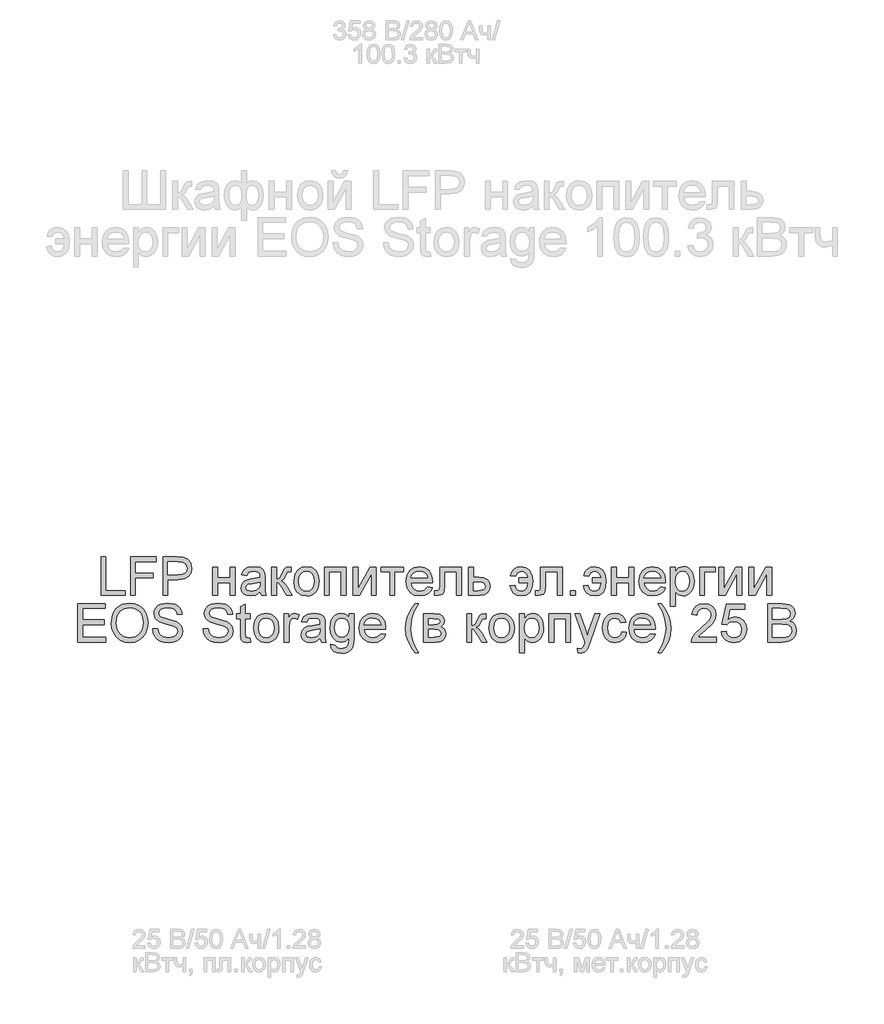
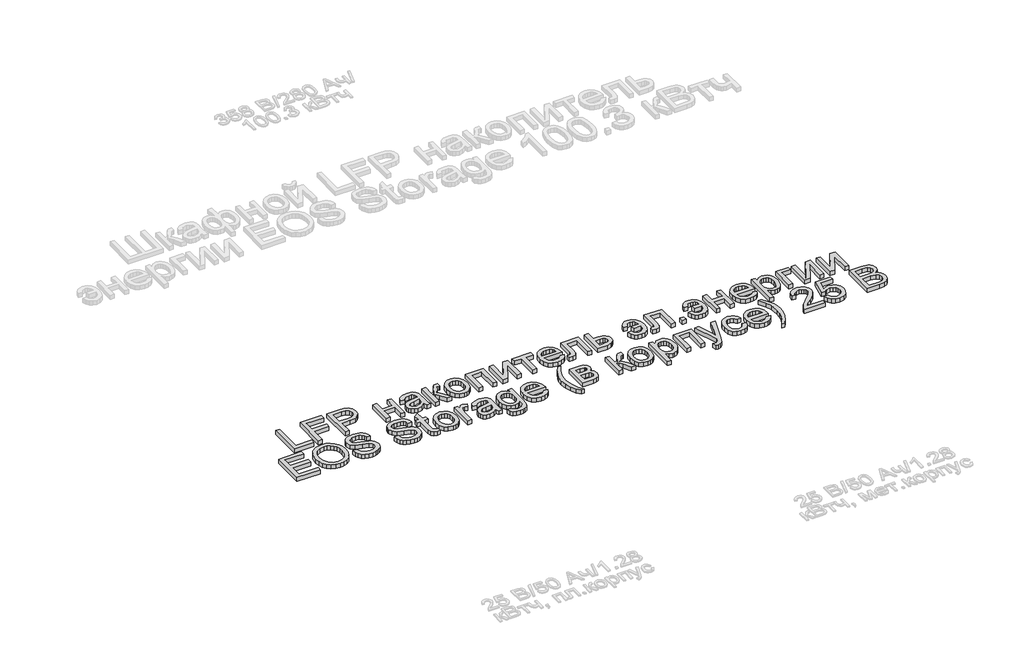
# One storey, part 20 of 26: 1 proxy.
"""IFC4 building model written with IfcOpenShell, lengths in millimetres."""

from ifc_helpers import new_model, si_unit, origin, origin_with_axes, place, context, project, spatial, polyline, outline, extrude, element, save

model = new_model("IFC4")

# Units and contexts
model_context = context("Model", 3, world=origin())
ifc_project = project(units=[si_unit("LENGTHUNIT", "METRE", prefix="MILLI")], contexts=[model_context])

# Site, building, storey
site = spatial("IfcSite", under=ifc_project)
building = spatial("IfcBuilding", under=site)
storey = spatial("IfcBuildingStorey", under=building, Name="Этаж 01", Elevation=0.0)

# Proxy
placement = place(None, origin())
element("IfcBuildingElementProxy", 1, Name="150 мм Arial", ObjectType="150 мм Arial", at=placement, inside=storey, context=model_context, shape_type="SweptSolid", body=[
    extrude(outline(polyline([(14247.5390032, -14011.2706711), (14247.5390032, -13860.5862059), (14266.3745613, -13860.5862059), (14266.3745613, -13992.4351129), (14341.7167939, -13992.4351129), (14341.7167939, -14011.2706711), (14247.5390032, -14011.2706711)])), origin_with_axes(), (0.0, 0.0, 1.0), 20.0),
    extrude(outline(polyline([(14362.9067968, -14011.2706711), (14362.9067968, -13860.5862059), (14464.1479219, -13860.5862059), (14464.1479219, -13879.421764), (14381.742355, -13879.421764), (14381.742355, -13924.1562146), (14452.3756981, -13924.1562146), (14452.3756981, -13942.9917728), (14381.742355, -13942.9917728), (14381.742355, -14011.2706711), (14362.9067968, -14011.2706711)])), origin_with_axes(), (0.0, 0.0, 1.0), 20.0),
    extrude(outline(polyline([(14490.0468144, -14011.2706711), (14490.0468144, -13860.5862059), (14545.8913012, -13860.5862059), (14568.4056793, -13862.0209456), (14586.7078086, -13869.0658858), (14598.5720029, -13883.6340129), (14603.0601633, -13904.1802223), (14600.0297354, -13921.9397256), (14590.9384515, -13936.7377789), (14573.9377048, -13946.725775), (14547.1788882, -13950.0551071), (14508.8823725, -13950.0551071), (14508.8823725, -14011.2706711), (14490.0468144, -14011.2706711)]), holes=[polyline([(14508.8823725, -13931.2195489), (14548.2825342, -13931.2195489), (14564.9843768, -13929.4905036), (14576.0208366, -13924.3033674), (14582.173663, -13915.9800373), (14584.2246051, -13904.8424099), (14579.3869569, -13889.2442133), (14566.676634, -13880.709351), (14547.8410758, -13879.421764), (14508.8823725, -13879.421764), (14508.8823725, -13931.2195489)])]), origin_with_axes(), (0.0, 0.0, 1.0), 20.0),
    extrude(outline(polyline([(14685.4657302, -13900.6117669), (14704.3012884, -13900.6117669), (14704.3012884, -13942.9917728), (14753.7446285, -13942.9917728), (14753.7446285, -13900.6117669), (14772.5801867, -13900.6117669), (14772.5801867, -14011.2706711), (14753.7446285, -14011.2706711), (14753.7446285, -13961.8273309), (14704.3012884, -13961.8273309), (14704.3012884, -14011.2706711), (14685.4657302, -14011.2706711), (14685.4657302, -13900.6117669)])), origin_with_axes(), (0.0, 0.0, 1.0), 20.0),
    extrude(outline(polyline([(14871.466867, -13997.1440025), (14853.2015259, -14009.9095077), (14833.0231985, -14013.6251159), (14817.2824476, -14011.3902327), (14805.6711721, -14004.6855834), (14798.5112688, -13994.5044492), (14796.1246344, -13981.8401115), (14799.7298779, -13966.9408907), (14809.2028393, -13956.12516), (14822.3914088, -13949.9447425), (14838.6885812, -13947.1120511), (14871.3565024, -13940.637328), (14871.466867, -13936.4434733), (14870.1700829, -13928.0373697), (14866.2797308, -13922.5375338), (14857.5793217, -13918.4540437), (14845.4576099, -13917.0928803), (14826.4013226, -13920.716518), (14817.3146373, -13933.5739937), (14798.4790791, -13931.2195489), (14806.6276653, -13912.8254492), (14823.0352023, -13902.0465067), (14847.8856311, -13898.2573222), (14870.7127089, -13901.6050483), (14883.6069728, -13910.0111519), (14889.3827201, -13922.7950512), (14890.3024251, -13939.2761646), (14890.3024251, -13962.7102477), (14891.2589183, -13995.4333512), (14895.0113147, -14011.2706711), (14876.1757565, -14011.2706711), (14871.466867, -13997.1440025)]), holes=[polyline([(14871.466867, -13959.4728862), (14841.0798142, -13965.2486335), (14824.8746123, -13968.302054), (14817.5353665, -13973.268461), (14814.9601925, -13980.5157363), (14820.5703929, -13990.7060676), (14837.0331122, -13994.7895577), (14856.0893996, -13990.2830033), (14868.3766582, -13979.3753021), (14871.3565024, -13964.8071751), (14871.466867, -13959.4728862)])]), origin_with_axes(), (0.0, 0.0, 1.0), 20.0),
    extrude(outline(polyline([(14916.2013176, -13900.6117669), (14935.0368757, -13900.6117669), (14935.0368757, -13947.7006623), (14947.6552282, -13944.316148), (14957.9927122, -13924.597673), (14966.5827568, -13907.5831307), (14974.1611259, -13902.0465067), (14987.9383066, -13900.6117669), (14991.5435502, -13900.6117669), (14991.5435502, -13919.5576897), (14986.4667787, -13919.4473251), (14977.2697288, -13921.4338879), (14970.7950057, -13933.8315111), (14963.1982425, -13947.2408098), (14952.5480587, -13953.8075034), (14964.4306472, -13961.1375522), (14976.0925064, -13976.5793989), (14996.2524397, -14011.2706711), (14974.8417076, -14011.2706711), (14955.0864445, -13977.3151629), (14945.1536306, -13962.949371), (14935.0368757, -13959.4728862), (14935.0368757, -14011.2706711), (14916.2013176, -14011.2706711), (14916.2013176, -13900.6117669)])), origin_with_axes(), (0.0, 0.0, 1.0), 20.0),
    extrude(outline(polyline([(15003.315774, -13955.941219), (15007.3900671, -13929.2605773), (15019.6129464, -13910.5077926), (15034.7145023, -13901.3199398), (15052.7959024, -13898.2573222), (15072.5833552, -13901.9867259), (15088.3884854, -13913.1749371), (15098.7489621, -13930.9390389), (15102.2024543, -13954.3961146), (15100.6757441, -13973.4248108), (15096.0956132, -13987.9101644), (15088.595419, -13998.7580847), (15078.3085188, -14006.8744812), (15066.090238, -14011.9374572), (15052.7959024, -14013.6251159), (15032.7693263, -14009.9095077), (15016.9825902, -13998.7626832), (15006.7324781, -13980.6261009), (15003.315774, -13955.941219)]), holes=[polyline([(15022.1513322, -13955.9044308), (15024.331033, -13972.9511628), (15030.8701355, -13985.0958671), (15040.7109789, -13992.3661351), (15052.7959024, -13994.7895577), (15064.8256436, -13992.3523395), (15074.6480929, -13985.0406848), (15081.1871954, -13972.7350321), (15083.3668962, -13955.3158196), (15081.1733998, -13938.7657284), (15074.5929106, -13926.7865709), (15064.7566658, -13919.516303), (15052.7959024, -13917.0928803), (15040.7109789, -13919.5071059), (15030.8701355, -13926.7497827), (15024.331033, -13938.8668959), (15022.1513322, -13955.9044308)])]), origin_with_axes(), (0.0, 0.0, 1.0), 20.0),
    extrude(outline(polyline([(15123.3924573, -13900.6117669), (15208.152469, -13900.6117669), (15208.152469, -14011.2706711), (15189.3169108, -14011.2706711), (15189.3169108, -13919.4473251), (15142.2280154, -13919.4473251), (15142.2280154, -14011.2706711), (15123.3924573, -14011.2706711), (15123.3924573, -13900.6117669)])), origin_with_axes(), (0.0, 0.0, 1.0), 20.0),
    extrude(outline(polyline([(15236.4058062, -13900.6117669), (15255.2413643, -13900.6117669), (15255.2413643, -13985.0038966), (15301.5209193, -13900.6117669), (15325.8747074, -13900.6117669), (15325.8747074, -14011.2706711), (15307.0391493, -14011.2706711), (15307.0391493, -13927.3935762), (15261.0538999, -14011.2706711), (15236.4058062, -14011.2706711), (15236.4058062, -13900.6117669)])), origin_with_axes(), (0.0, 0.0, 1.0), 20.0),
    extrude(outline(polyline([(15344.7102656, -13900.6117669), (15434.1791668, -13900.6117669), (15434.1791668, -13919.4473251), (15398.8624953, -13919.4473251), (15398.8624953, -14011.2706711), (15380.0269371, -14011.2706711), (15380.0269371, -13919.4473251), (15344.7102656, -13919.4473251), (15344.7102656, -13900.6117669)])), origin_with_axes(), (0.0, 0.0, 1.0), 20.0),
    extrude(outline(polyline([(15528.1362284, -13978.3084443), (15546.6039045, -13980.6628891), (15539.9498389, -13994.5780256), (15529.3318448, -14004.979889), (15514.9890456, -14011.4638091), (15497.1605644, -14013.6251159), (15475.0600535, -14009.8957121), (15458.0547083, -13998.7075009), (15447.2113865, -13980.7870493), (15443.5969459, -13956.860924), (15447.2481747, -13932.1300569), (15458.2018611, -13913.6347896), (15474.9772801, -13902.101689), (15496.0937066, -13898.2573222), (15516.552544, -13902.092492), (15532.9003002, -13913.5980014), (15543.6194618, -13932.0564805), (15547.1925157, -13956.7505594), (15547.0821511, -13961.8273309), (15462.432504, -13961.8273309), (15465.6928582, -13975.9264084), (15473.2666288, -13986.2914836), (15484.1973226, -13992.6650392), (15497.5284464, -13994.7895577), (15515.9961225, -13990.8532203), (15528.1362284, -13978.3084443)]), holes=[polyline([(15462.432504, -13942.9917728), (15528.3569576, -13942.9917728), (15525.8093747, -13933.0405648), (15520.8153767, -13925.9220482), (15509.8340991, -13919.3001723), (15496.0201302, -13917.0928803), (15483.3236028, -13918.8541154), (15472.8251704, -13924.1378205), (15465.5273113, -13932.3737787), (15462.432504, -13942.9917728)])]), origin_with_axes(), (0.0, 0.0, 1.0), 20.0),
    extrude(outline(polyline([(15575.4458529, -13900.6117669), (15660.2058646, -13900.6117669), (15660.2058646, -14011.1603065), (15641.3703065, -14011.1603065), (15641.3703065, -13919.4473251), (15594.2814111, -13919.4473251), (15594.2814111, -13972.2383914), (15593.0122182, -13996.5921795), (15586.0408544, -14006.8744812), (15569.559741, -14011.2706711), (15554.25585, -14010.3141779), (15554.25585, -13992.4351129), (15562.6803477, -13992.4351129), (15571.1968159, -13991.2762846), (15574.5997244, -13987.5974647), (15575.4458529, -13971.1715336), (15575.4458529, -13900.6117669)])), origin_with_axes(), (0.0, 0.0, 1.0), 20.0),
    extrude(outline(polyline([(15688.4592019, -13900.6117669), (15707.29476, -13900.6117669), (15707.29476, -13940.637328), (15728.9997977, -13940.637328), (15747.8169618, -13942.9963713), (15761.7412953, -13950.0735012), (15770.349734, -13961.2985006), (15773.2192135, -13976.1011523), (15770.7773968, -13989.5794289), (15763.4519466, -14000.9515811), (15750.7554192, -14008.6908986), (15732.2003711, -14011.2706711), (15688.4592019, -14011.2706711), (15688.4592019, -13900.6117669)]), holes=[polyline([(15707.29476, -13992.4351129), (15724.8795194, -13992.4351129), (15747.5962326, -13988.4803815), (15752.6867997, -13983.4174055), (15754.3836554, -13976.1379405), (15749.3620662, -13964.5496577), (15741.2916549, -13960.742079), (15727.1235996, -13959.4728862), (15707.29476, -13959.4728862), (15707.29476, -13992.4351129)])]), origin_with_axes(), (0.0, 0.0, 1.0), 20.0),
    extrude(outline(polyline([(15886.2325625, -13942.9917728), (15921.549234, -13942.9917728), (15918.6475648, -13932.5577197), (15913.0327658, -13924.2849733), (15905.0727191, -13918.8909036), (15895.1353067, -13917.0928803), (15879.8682039, -13921.8017699), (15872.1058939, -13935.9284385), (15853.2703357, -13933.5739937), (15857.661927, -13919.4335295), (15866.2013878, -13908.1349537), (15878.4564568, -13900.7267301), (15893.9948726, -13898.2573222), (15913.2213053, -13902.101689), (15927.9319866, -13913.6347896), (15937.2715908, -13931.9001306), (15940.3847922, -13955.941219), (15937.8142167, -13979.8719428), (15928.925268, -13998.6891068), (15914.3985277, -14010.5533012), (15894.9145776, -14013.6251159), (15878.212735, -14010.8705994), (15865.0425595, -14002.6070501), (15855.8087215, -13989.8461434), (15850.9158909, -13973.5995548), (15869.7514491, -13971.24511), (15872.7266947, -13981.5458059), (15877.8632471, -13988.9034458), (15885.1611062, -13993.3180297), (15894.620272, -13994.7895577), (15905.2612587, -13992.7294185), (15913.2718891, -13986.549001), (15918.6889515, -13976.2483051), (15921.549234, -13961.8273309), (15886.2325625, -13961.8273309), (15886.2325625, -13942.9917728)])), origin_with_axes(), (0.0, 0.0, 1.0), 20.0),
    extrude(outline(polyline([(15970.9925742, -13900.6117669), (16055.7525858, -13900.6117669), (16055.7525858, -14011.1603065), (16036.9170277, -14011.1603065), (16036.9170277, -13919.4473251), (15989.8281323, -13919.4473251), (15989.8281323, -13972.2383914), (15988.5589394, -13996.5921795), (15981.5875756, -14006.8744812), (15965.1064622, -14011.2706711), (15949.8025712, -14010.3141779), (15949.8025712, -13992.4351129), (15958.2270689, -13992.4351129), (15966.7435371, -13991.2762846), (15970.1464456, -13987.5974647), (15970.9925742, -13971.1715336), (15970.9925742, -13900.6117669)])), origin_with_axes(), (0.0, 0.0, 1.0), 20.0),
    extrude(outline(polyline([(16088.7148126, -14011.2706711), (16088.7148126, -13992.4351129), (16107.5503708, -13992.4351129), (16107.5503708, -14011.2706711), (16088.7148126, -14011.2706711)])), origin_with_axes(), (0.0, 0.0, 1.0), 20.0),
    extrude(outline(polyline([(16173.4748243, -13942.9917728), (16208.7914958, -13942.9917728), (16205.8898266, -13932.5577197), (16200.2750276, -13924.2849733), (16192.314981, -13918.8909036), (16182.3775686, -13917.0928803), (16167.1104658, -13921.8017699), (16159.3481557, -13935.9284385), (16140.5125975, -13933.5739937), (16144.9041888, -13919.4335295), (16153.4436497, -13908.1349537), (16165.6987186, -13900.7267301), (16181.2371344, -13898.2573222), (16200.4635672, -13902.101689), (16215.1742485, -13913.6347896), (16224.5138526, -13931.9001306), (16227.627054, -13955.941219), (16225.0564785, -13979.8719428), (16216.1675298, -13998.6891068), (16201.6407896, -14010.5533012), (16182.1568394, -14013.6251159), (16165.4549968, -14010.8705994), (16152.2848214, -14002.6070501), (16143.0509833, -13989.8461434), (16138.1581528, -13973.5995548), (16156.9937109, -13971.24511), (16159.9689566, -13981.5458059), (16165.1055089, -13988.9034458), (16172.403368, -13993.3180297), (16181.8625338, -13994.7895577), (16192.5035205, -13992.7294185), (16200.5141509, -13986.549001), (16205.9312133, -13976.2483051), (16208.7914958, -13961.8273309), (16173.4748243, -13961.8273309), (16173.4748243, -13942.9917728)])), origin_with_axes(), (0.0, 0.0, 1.0), 20.0),
    extrude(outline(polyline([(16248.8170569, -13900.6117669), (16267.6526151, -13900.6117669), (16267.6526151, -13942.9917728), (16317.0959552, -13942.9917728), (16317.0959552, -13900.6117669), (16335.9315134, -13900.6117669), (16335.9315134, -14011.2706711), (16317.0959552, -14011.2706711), (16317.0959552, -13961.8273309), (16267.6526151, -13961.8273309), (16267.6526151, -14011.2706711), (16248.8170569, -14011.2706711), (16248.8170569, -13900.6117669)])), origin_with_axes(), (0.0, 0.0, 1.0), 20.0),
    extrude(outline(polyline([(16441.6607988, -13978.3084443), (16460.1284749, -13980.6628891), (16453.4744094, -13994.5780256), (16442.8564153, -14004.979889), (16428.513616, -14011.4638091), (16410.6851348, -14013.6251159), (16388.5846239, -14009.8957121), (16371.5792787, -13998.7075009), (16360.7359569, -13980.7870493), (16357.1215163, -13956.860924), (16360.7727451, -13932.1300569), (16371.7264315, -13913.6347896), (16388.5018505, -13902.101689), (16409.618277, -13898.2573222), (16430.0771145, -13902.092492), (16446.4248706, -13913.5980014), (16457.1440323, -13932.0564805), (16460.7170861, -13956.7505594), (16460.6067215, -13961.8273309), (16375.9570744, -13961.8273309), (16379.2174286, -13975.9264084), (16386.7911992, -13986.2914836), (16397.721893, -13992.6650392), (16411.0530168, -13994.7895577), (16429.5206929, -13990.8532203), (16441.6607988, -13978.3084443)]), holes=[polyline([(16375.9570744, -13942.9917728), (16441.881528, -13942.9917728), (16439.3339452, -13933.0405648), (16434.3399471, -13925.9220482), (16423.3586695, -13919.3001723), (16409.5447006, -13917.0928803), (16396.8481732, -13918.8541154), (16386.3497408, -13924.1378205), (16379.0518817, -13932.3737787), (16375.9570744, -13942.9917728)])]), origin_with_axes(), (0.0, 0.0, 1.0), 20.0),
    extrude(outline(polyline([(16479.5526443, -14053.6506769), (16479.5526443, -13900.6117669), (16498.3882024, -13900.6117669), (16498.3882024, -13919.0794431), (16511.4112251, -13903.4628524), (16528.9959844, -13898.2573222), (16541.7338985, -13900.078338), (16552.8715259, -13905.5413857), (16561.9398171, -13914.3153713), (16568.4697225, -13926.069201), (16573.7304351, -13955.0950904), (16572.2451115, -13971.2037233), (16567.7891408, -13985.6109019), (16560.5050773, -13997.5854609), (16550.5354753, -14006.3962346), (16538.9241998, -14011.8178955), (16526.7151161, -14013.6251159), (16510.3259732, -14008.7874676), (16498.3882024, -13996.5553913), (16498.3882024, -14053.6506769), (16479.5526443, -14053.6506769)]), holes=[polyline([(16498.3882024, -13956.8241358), (16500.425349, -13973.7099194), (16506.5367886, -13985.5189314), (16515.554496, -13992.4719011), (16526.3104459, -13994.7895577), (16537.2411397, -13992.3891277), (16546.4887733, -13985.1878376), (16552.793351, -13972.9465642), (16554.8948769, -13955.4261842), (16552.8439348, -13938.6323711), (16546.6911084, -13926.6578122), (16537.6871966, -13919.4841133), (16527.0829981, -13917.0928803), (16516.4374128, -13919.6358646), (16507.0886116, -13927.2648175), (16500.5633047, -13939.7406156), (16498.3882024, -13956.8241358)])]), origin_with_axes(), (0.0, 0.0, 1.0), 20.0),
    extrude(outline(polyline([(16594.920438, -13900.6117669), (16656.136002, -13900.6117669), (16656.136002, -13919.4473251), (16613.7559961, -13919.4473251), (16613.7559961, -14011.2706711), (16594.920438, -14011.2706711), (16594.920438, -13900.6117669)])), origin_with_axes(), (0.0, 0.0, 1.0), 20.0),
    extrude(outline(polyline([(16670.2626706, -13900.6117669), (16689.0982287, -13900.6117669), (16689.0982287, -13985.0038966), (16735.3777837, -13900.6117669), (16759.7315718, -13900.6117669), (16759.7315718, -14011.2706711), (16740.8960137, -14011.2706711), (16740.8960137, -13927.3935762), (16694.9107643, -14011.2706711), (16670.2626706, -14011.2706711), (16670.2626706, -13900.6117669)])), origin_with_axes(), (0.0, 0.0, 1.0), 20.0),
    extrude(outline(polyline([(16787.984909, -13900.6117669), (16806.8204672, -13900.6117669), (16806.8204672, -13985.0038966), (16853.1000222, -13900.6117669), (16877.4538103, -13900.6117669), (16877.4538103, -14011.2706711), (16858.6182521, -14011.2706711), (16858.6182521, -13927.3935762), (16812.6330027, -14011.2706711), (16787.984909, -14011.2706711), (16787.984909, -13900.6117669)])), origin_with_axes(), (0.0, 0.0, 1.0), 20.0),
    extrude(outline(polyline([(14155.7156572, -14194.2328978), (14155.7156572, -14043.5484326), (14264.0201165, -14043.5484326), (14264.0201165, -14062.3839908), (14174.5512153, -14062.3839908), (14174.5512153, -14107.1184414), (14259.311227, -14107.1184414), (14259.311227, -14125.9539995), (14174.5512153, -14125.9539995), (14174.5512153, -14175.3973397), (14266.3745613, -14175.3973397), (14266.3745613, -14194.2328978), (14155.7156572, -14194.2328978)])), origin_with_axes(), (0.0, 0.0, 1.0), 20.0),
    extrude(outline(polyline([(14287.5645642, -14120.877228), (14292.5861535, -14087.5563163), (14298.86314, -14073.9377847), (14307.6509212, -14062.3472026), (14330.6527429, -14046.4822915), (14359.4854943, -14041.1939879), (14379.2499545, -14043.6771913), (14396.9726696, -14051.1268017), (14411.6879494, -14063.0185872), (14422.4301037, -14078.828316), (14428.9967973, -14097.7926328), (14431.1856951, -14119.1481826), (14428.8818341, -14140.788841), (14421.9702512, -14160.0198723), (14410.8326238, -14175.8571922), (14395.8506295, -14187.3167163), (14378.2796657, -14194.269686), (14359.3751297, -14196.5873426), (14339.3071668, -14194.0259642), (14321.4832842, -14186.3418291), (14306.8047926, -14174.2293144), (14296.1730029, -14158.3827974), (14289.7166739, -14140.149646), (14287.5645642, -14120.877228)]), holes=[polyline([(14306.4001224, -14121.061169), (14310.1663143, -14144.6332078), (14321.4648901, -14162.5950463), (14338.4472427, -14173.9625999), (14359.2647651, -14177.7517845), (14380.3857901, -14173.9258117), (14397.3957339, -14162.4478935), (14408.6115362, -14143.9342321), (14412.350137, -14119.0010298), (14410.7498503, -14102.3267784), (14405.9489903, -14087.9150012), (14398.0717171, -14076.1289818), (14387.2421908, -14067.3320036), (14374.1777815, -14061.8551604), (14359.5958589, -14060.029546), (14339.334758, -14063.5474176), (14322.1086836, -14074.1010323), (14310.3272627, -14092.8768097), (14306.4001224, -14121.061169)])]), origin_with_axes(), (0.0, 0.0, 1.0), 20.0),
    extrude(outline(polyline([(14450.0212533, -14142.4351129), (14468.8568114, -14142.4351129), (14474.9268644, -14161.2890652), (14489.7525088, -14173.2084418), (14512.3404633, -14177.7517845), (14532.02215, -14174.3120878), (14544.732473, -14164.8575205), (14548.9079336, -14152.220774), (14545.7809366, -14140.4669443), (14532.9786432, -14131.9136879), (14505.5530405, -14124.7215949), (14476.0305104, -14115.4325745), (14460.0092495, -14101.4162705), (14454.7301428, -14082.6910769), (14456.3626192, -14071.6592156), (14461.2600482, -14061.3723153), (14469.2936713, -14052.653512), (14480.3347297, -14046.3259417), (14508.2569731, -14041.1939879), (14538.0554147, -14046.565065), (14549.4781507, -14053.1961379), (14557.9210425, -14062.3472026), (14563.2645285, -14073.4480418), (14565.389047, -14085.9284385), (14546.5534888, -14085.9284385), (14543.0953981, -14074.6896435), (14535.884911, -14066.5778455), (14524.6185249, -14061.6666209), (14508.9927371, -14060.029546), (14492.9990674, -14061.6482268), (14482.0269869, -14066.5042691), (14475.6810225, -14073.6503769), (14473.565701, -14082.1392539), (14475.0648201, -14089.3773322), (14479.5621775, -14095.1990647), (14510.3171123, -14105.7204898), (14543.6472211, -14115.1750571), (14554.3847768, -14122.0084651), (14561.8757739, -14130.4421599), (14566.2765623, -14140.3841708), (14567.7434918, -14151.7425274), (14566.0558331, -14163.3538029), (14560.9928571, -14174.2752996), (14552.7614975, -14183.6746846), (14541.5686878, -14190.7196248), (14528.1088053, -14195.1204132), (14513.0762273, -14196.5873426), (14494.6223467, -14195.00545), (14479.4334188, -14190.2597723), (14467.3346997, -14182.3319153), (14458.1514454, -14171.203485), (14452.2561364, -14157.6470334), (14450.0212533, -14142.4351129)])), origin_with_axes(), (0.0, 0.0, 1.0), 20.0),
    extrude(outline(polyline([(14647.7946139, -14142.4351129), (14666.6301721, -14142.4351129), (14672.700225, -14161.2890652), (14687.5258694, -14173.2084418), (14710.1138239, -14177.7517845), (14729.7955106, -14174.3120878), (14742.5058336, -14164.8575205), (14746.6812942, -14152.220774), (14743.5542972, -14140.4669443), (14730.7520038, -14131.9136879), (14703.3264011, -14124.7215949), (14673.803871, -14115.4325745), (14657.7826101, -14101.4162705), (14652.5035034, -14082.6910769), (14654.1359798, -14071.6592156), (14659.0334089, -14061.3723153), (14667.0670319, -14052.653512), (14678.1080903, -14046.3259417), (14706.0303337, -14041.1939879), (14735.8287753, -14046.565065), (14747.2515113, -14053.1961379), (14755.6944031, -14062.3472026), (14761.0378891, -14073.4480418), (14763.1624076, -14085.9284385), (14744.3268494, -14085.9284385), (14740.8687587, -14074.6896435), (14733.6582716, -14066.5778455), (14722.3918855, -14061.6666209), (14706.7660977, -14060.029546), (14690.772428, -14061.6482268), (14679.8003475, -14066.5042691), (14673.4543831, -14073.6503769), (14671.3390616, -14082.1392539), (14672.8381807, -14089.3773322), (14677.3355381, -14095.1990647), (14708.0904729, -14105.7204898), (14741.4205817, -14115.1750571), (14752.1581374, -14122.0084651), (14759.6491345, -14130.4421599), (14764.0499229, -14140.3841708), (14765.5168524, -14151.7425274), (14763.8291937, -14163.3538029), (14758.7662177, -14174.2752996), (14750.5348581, -14183.6746846), (14739.3420484, -14190.7196248), (14725.8821659, -14195.1204132), (14710.8495879, -14196.5873426), (14692.3957073, -14195.00545), (14677.2067794, -14190.2597723), (14665.1080603, -14182.3319153), (14655.924806, -14171.203485), (14650.029497, -14157.6470334), (14647.7946139, -14142.4351129)])), origin_with_axes(), (0.0, 0.0, 1.0), 20.0),
    extrude(outline(polyline([(14831.4413059, -14178.5243367), (14833.7957507, -14194.7847208), (14819.7058702, -14196.5873426), (14803.9237327, -14193.4603457), (14796.051058, -14185.2565772), (14793.7701896, -14163.8826332), (14793.7701896, -14102.4095519), (14779.643521, -14102.4095519), (14779.643521, -14083.5739937), (14793.7701896, -14083.5739937), (14793.7701896, -14056.6818199), (14812.6057477, -14045.6085718), (14812.6057477, -14083.5739937), (14831.4413059, -14083.5739937), (14831.4413059, -14102.4095519), (14812.6057477, -14102.4095519), (14812.6057477, -14163.3308103), (14813.5990291, -14173.0428949), (14816.8179966, -14176.4825916), (14823.2375374, -14177.7517845), (14831.4413059, -14178.5243367)])), origin_with_axes(), (0.0, 0.0, 1.0), 20.0),
    extrude(outline(polyline([(14845.5679745, -14138.9034458), (14849.6422676, -14112.2228041), (14861.8651469, -14093.4700194), (14876.9667028, -14084.2821665), (14895.0481029, -14081.2195489), (14914.8355557, -14084.9489527), (14930.6406859, -14096.1371638), (14941.0011626, -14113.9012657), (14944.4546548, -14137.3583414), (14942.9279445, -14156.3870376), (14938.3478137, -14170.8723912), (14930.8476195, -14181.7203115), (14920.5607192, -14189.836708), (14908.3424385, -14194.899684), (14895.0481029, -14196.5873426), (14875.0215267, -14192.8717345), (14859.2347906, -14181.72491), (14848.9846785, -14163.5883277), (14845.5679745, -14138.9034458)]), holes=[polyline([(14864.4035327, -14138.8666576), (14866.5832335, -14155.9133895), (14873.1223359, -14168.0580939), (14882.9631793, -14175.3283618), (14895.0481029, -14177.7517845), (14907.0778441, -14175.3145662), (14916.9002934, -14168.0029116), (14923.4393958, -14155.6972589), (14925.6190967, -14138.2780464), (14923.4256003, -14121.7279551), (14916.8451111, -14109.7487977), (14907.0088662, -14102.4785297), (14895.0481029, -14100.0551071), (14882.9631793, -14102.4693327), (14873.1223359, -14109.7120095), (14866.5832335, -14121.8291227), (14864.4035327, -14138.8666576)])]), origin_with_axes(), (0.0, 0.0, 1.0), 20.0),
    extrude(outline(polyline([(14965.6446577, -14194.2328978), (14965.6446577, -14083.5739937), (14982.1257711, -14083.5739937), (14982.1257711, -14099.9447425), (14993.8244186, -14084.8615807), (15005.5966424, -14081.2195489), (15024.505777, -14087.0320845), (15018.2149948, -14103.917868), (15004.971243, -14100.0551071), (14994.3210593, -14103.7707152), (14987.5336364, -14114.0714111), (14984.4802159, -14136.0707544), (14984.4802159, -14194.2328978), (14965.6446577, -14194.2328978)])), origin_with_axes(), (0.0, 0.0, 1.0), 20.0),
    extrude(outline(polyline([(15106.9113439, -14180.1062292), (15088.6460028, -14192.8717345), (15068.4676754, -14196.5873426), (15052.7269245, -14194.3524595), (15041.115649, -14187.6478101), (15033.9557457, -14177.4666759), (15031.5691113, -14164.8023382), (15035.1743548, -14149.9031174), (15044.6473162, -14139.0873868), (15057.8358857, -14132.9069693), (15074.1330581, -14130.0742779), (15106.8009793, -14123.5995548), (15106.9113439, -14119.4057), (15105.6145599, -14110.9995964), (15101.7242078, -14105.4997606), (15093.0237986, -14101.4162705), (15080.9020868, -14100.0551071), (15061.8457995, -14103.6787447), (15052.7591142, -14116.5362205), (15033.923556, -14114.1817757), (15042.0721422, -14095.7876759), (15058.4796792, -14085.0087335), (15083.330108, -14081.2195489), (15106.1571858, -14084.5672751), (15119.0514497, -14092.9733787), (15124.827197, -14105.757278), (15125.746902, -14122.2383914), (15125.746902, -14145.6724745), (15126.7033952, -14178.395578), (15130.4557916, -14194.2328978), (15111.6202334, -14194.2328978), (15106.9113439, -14180.1062292)]), holes=[polyline([(15106.9113439, -14142.4351129), (15076.5242911, -14148.2108603), (15060.3190892, -14151.2642808), (15052.9798434, -14156.2306877), (15050.4046694, -14163.4779631), (15056.0148699, -14173.6682943), (15072.4775891, -14177.7517845), (15091.5338765, -14173.24523), (15103.8211351, -14162.3375289), (15106.8009793, -14147.7694019), (15106.9113439, -14142.4351129)])]), origin_with_axes(), (0.0, 0.0, 1.0), 20.0),
    extrude(outline(polyline([(15146.936905, -14203.6506769), (15165.7724631, -14206.0051217), (15171.8793042, -14215.9379356), (15190.1630394, -14220.1317903), (15209.4400559, -14215.3861126), (15218.6371058, -14202.0687843), (15219.9246928, -14180.1062292), (15206.6625469, -14190.7012307), (15190.4941332, -14194.2328978), (15171.0745624, -14190.1218166), (15156.5938073, -14177.7885727), (15147.585297, -14159.7071726), (15144.5824602, -14138.3516228), (15149.9719314, -14109.1601865), (15156.5662162, -14097.3097877), (15165.570128, -14088.5036124), (15176.6755657, -14083.0405648), (15189.5744282, -14081.2195489), (15206.3774383, -14085.3398273), (15219.9246928, -14097.7006623), (15219.9246928, -14083.5739937), (15238.760251, -14083.5739937), (15238.760251, -14179.1129478), (15237.472664, -14201.172072), (15233.609903, -14215.6988123), (15226.9558374, -14225.332722), (15217.2943365, -14232.7133545), (15204.8369325, -14237.40385), (15189.7951574, -14238.9673485), (15172.2701789, -14236.764655), (15158.4700055, -14230.1565747), (15149.617845, -14219.1247133), (15146.936905, -14203.6506769)]), holes=[polyline([(15163.4180183, -14137.0640358), (15165.4275737, -14154.340694), (15171.4562399, -14166.2186839), (15180.5199326, -14173.1026758), (15191.6345674, -14175.3973397), (15202.6664287, -14173.1164713), (15211.7761066, -14166.2738662), (15217.8875463, -14154.5476276), (15219.9246928, -14137.6158588), (15217.8277654, -14121.2864967), (15211.5369833, -14109.5280685), (15202.2939482, -14102.4233474), (15191.3402618, -14100.0551071), (15180.5843119, -14102.3865592), (15171.5666045, -14109.3809157), (15165.4551649, -14120.9646), (15163.4180183, -14137.0640358)])]), origin_with_axes(), (0.0, 0.0, 1.0), 20.0),
    extrude(outline(polyline([(15344.4895364, -14161.2706711), (15362.9572125, -14163.6251159), (15356.3031469, -14177.5402523), (15345.6851529, -14187.9421157), (15331.3423536, -14194.4260359), (15313.5138724, -14196.5873426), (15291.4133615, -14192.8579389), (15274.4080163, -14181.6697277), (15263.5646945, -14163.749276), (15259.9502539, -14139.8231508), (15263.6014827, -14115.0922836), (15274.5551691, -14096.5970163), (15291.3305881, -14085.0639158), (15312.4470146, -14081.2195489), (15332.905852, -14085.0547187), (15349.2536082, -14096.5602281), (15359.9727698, -14115.0187072), (15363.5458237, -14139.7127862), (15363.4354591, -14144.7895577), (15278.785812, -14144.7895577), (15282.0461662, -14158.8886352), (15289.6199368, -14169.2537104), (15300.5506306, -14175.6272659), (15313.8817544, -14177.7517845), (15332.3494305, -14173.8154471), (15344.4895364, -14161.2706711)]), holes=[polyline([(15278.785812, -14125.9539995), (15344.7102656, -14125.9539995), (15342.1626827, -14116.0027916), (15337.1686847, -14108.884275), (15326.1874071, -14102.2623991), (15312.3734382, -14100.0551071), (15299.6769108, -14101.8163421), (15289.1784784, -14107.1000473), (15281.8806193, -14115.3360055), (15278.785812, -14125.9539995)])]), origin_with_axes(), (0.0, 0.0, 1.0), 20.0),
    extrude(outline(polyline([(15478.9136174, -14236.6129037), (15464.3178992, -14216.1310736), (15452.1685964, -14192.4302761), (15443.9740249, -14166.6601423), (15441.2425011, -14139.9703036), (15443.2842462, -14116.5638116), (15449.4094814, -14094.1689952), (15461.5679813, -14068.8035316), (15478.9136174, -14043.5484326), (15493.040286, -14043.5484326), (15475.4187385, -14073.3836624), (15464.823737, -14102.2991873), (15460.0780593, -14140.0806682), (15462.1381984, -14164.2275226), (15468.3186159, -14188.36518), (15478.6193118, -14212.4936404), (15493.040286, -14236.6129037), (15478.9136174, -14236.6129037)])), origin_with_axes(), (0.0, 0.0, 1.0), 20.0),
    extrude(outline(polyline([(15511.8758442, -14083.5739937), (15553.3729332, -14083.5739937), (15576.1264346, -14086.0939854), (15588.9287281, -14095.3278234), (15594.2814111, -14111.4226607), (15591.0440495, -14124.5008657), (15581.2951767, -14133.8266742), (15593.9503173, -14144.0353996), (15598.9903006, -14161.7857059), (15595.7989243, -14176.1423007), (15588.2113582, -14186.2498586), (15576.200011, -14192.237138), (15559.7372917, -14194.2328978), (15511.8758442, -14194.2328978), (15511.8758442, -14083.5739937)]), holes=[polyline([(15530.7114023, -14125.9539995), (15549.3262313, -14125.9539995), (15564.6853046, -14124.9975064), (15572.1533091, -14121.1715336), (15575.4458529, -14114.2553521), (15574.0019161, -14108.6359546), (15569.6701056, -14105.021514), (15549.9148425, -14102.4095519), (15530.7114023, -14102.4095519), (15530.7114023, -14125.9539995)]), polyline([(15530.7114023, -14175.3973397), (15553.8143916, -14175.3973397), (15574.3054188, -14171.9944312), (15578.5452588, -14167.3545196), (15580.1547425, -14160.2406015), (15576.935775, -14151.1723103), (15568.5480655, -14145.8932037), (15551.9749816, -14144.7895577), (15530.7114023, -14144.7895577), (15530.7114023, -14175.3973397)])]), origin_with_axes(), (0.0, 0.0, 1.0), 20.0),
    extrude(outline(polyline([(15681.3958676, -14083.5739937), (15700.2314257, -14083.5739937), (15700.2314257, -14130.6628891), (15712.8497781, -14127.2783747), (15723.1872622, -14107.5598998), (15731.7773068, -14090.5453575), (15739.3556759, -14085.0087335), (15753.1328566, -14083.5739937), (15756.7381002, -14083.5739937), (15756.7381002, -14102.5199165), (15751.6613286, -14102.4095519), (15742.4642788, -14104.3961146), (15735.9895556, -14116.7937379), (15728.3927924, -14130.2030366), (15717.7426087, -14136.7697302), (15729.6251971, -14144.099779), (15741.2870564, -14159.5416257), (15761.4469897, -14194.2328978), (15740.0362576, -14194.2328978), (15720.2809944, -14160.2773897), (15710.3481806, -14145.9115978), (15700.2314257, -14142.4351129), (15700.2314257, -14194.2328978), (15681.3958676, -14194.2328978), (15681.3958676, -14083.5739937)])), origin_with_axes(), (0.0, 0.0, 1.0), 20.0),
    extrude(outline(polyline([(15768.510324, -14138.9034458), (15772.5846171, -14112.2228041), (15784.8074964, -14093.4700194), (15799.9090523, -14084.2821665), (15817.9904524, -14081.2195489), (15837.7779052, -14084.9489527), (15853.5830354, -14096.1371638), (15863.9435121, -14113.9012657), (15867.3970043, -14137.3583414), (15865.870294, -14156.3870376), (15861.2901632, -14170.8723912), (15853.789969, -14181.7203115), (15843.5030687, -14189.836708), (15831.284788, -14194.899684), (15817.9904524, -14196.5873426), (15797.9638762, -14192.8717345), (15782.1771401, -14181.72491), (15771.927028, -14163.5883277), (15768.510324, -14138.9034458)]), holes=[polyline([(15787.3458822, -14138.8666576), (15789.525583, -14155.9133895), (15796.0646854, -14168.0580939), (15805.9055288, -14175.3283618), (15817.9904524, -14177.7517845), (15830.0201936, -14175.3145662), (15839.8426429, -14168.0029116), (15846.3817453, -14155.6972589), (15848.5614462, -14138.2780464), (15846.3679498, -14121.7279551), (15839.7874606, -14109.7487977), (15829.9512157, -14102.4785297), (15817.9904524, -14100.0551071), (15805.9055288, -14102.4693327), (15796.0646854, -14109.7120095), (15789.525583, -14121.8291227), (15787.3458822, -14138.8666576)])]), origin_with_axes(), (0.0, 0.0, 1.0), 20.0),
    extrude(outline(polyline([(15888.5870072, -14236.6129037), (15888.5870072, -14083.5739937), (15907.4225654, -14083.5739937), (15907.4225654, -14102.0416699), (15920.445588, -14086.4250792), (15938.0303474, -14081.2195489), (15950.7682615, -14083.0405648), (15961.9058889, -14088.5036124), (15970.9741801, -14097.277598), (15977.5040855, -14109.0314278), (15982.764798, -14138.0573172), (15981.2794744, -14154.16595), (15976.8235038, -14168.5731287), (15969.5394403, -14180.5476876), (15959.5698382, -14189.3584614), (15947.9585627, -14194.7801223), (15935.749479, -14196.5873426), (15919.3603361, -14191.7496944), (15907.4225654, -14179.517618), (15907.4225654, -14236.6129037), (15888.5870072, -14236.6129037)]), holes=[polyline([(15907.4225654, -14139.7863626), (15909.4597119, -14156.6721461), (15915.5711516, -14168.4811582), (15924.588859, -14175.4341279), (15935.3448088, -14177.7517845), (15946.2755026, -14175.3513544), (15955.5231363, -14168.1500644), (15961.8277139, -14155.908791), (15963.9292398, -14138.388411), (15961.8782977, -14121.5945979), (15955.7254714, -14109.620039), (15946.7215595, -14102.4463401), (15936.117361, -14100.0551071), (15925.4717758, -14102.5980914), (15916.1229746, -14110.2270443), (15909.5976677, -14122.7028424), (15907.4225654, -14139.7863626)])]), origin_with_axes(), (0.0, 0.0, 1.0), 20.0),
    extrude(outline(polyline([(16003.9548009, -14083.5739937), (16088.7148126, -14083.5739937), (16088.7148126, -14194.2328978), (16069.8792545, -14194.2328978), (16069.8792545, -14102.4095519), (16022.7903591, -14102.4095519), (16022.7903591, -14194.2328978), (16003.9548009, -14194.2328978), (16003.9548009, -14083.5739937)])), origin_with_axes(), (0.0, 0.0, 1.0), 20.0),
    extrude(outline(polyline([(16116.9681498, -14236.6129037), (16114.6137051, -14218.4763213), (16124.1786369, -14220.1317903), (16133.1181694, -14218.053257), (16138.5996112, -14212.2591156), (16143.7499591, -14198.3899644), (16145.2214871, -14193.8282277), (16105.195926, -14083.5739937), (16125.0615537, -14083.5739937), (16146.2883449, -14145.0102869), (16153.682773, -14169.5848042), (16161.0772011, -14147.8797665), (16182.8926034, -14083.5739937), (16202.6110783, -14083.5739937), (16164.0938334, -14196.8816482), (16154.0874432, -14221.4561655), (16143.1613479, -14234.7367055), (16128.4828563, -14238.9673485), (16116.9681498, -14236.6129037)])), origin_with_axes(), (0.0, 0.0, 1.0), 20.0),
    extrude(outline(polyline([(16288.842618, -14154.2073368), (16307.6781761, -14156.5617815), (16302.4266607, -14173.3142079), (16292.5582261, -14185.9739471), (16279.0017746, -14193.9339937), (16262.6862081, -14196.5873426), (16242.650435, -14192.88553), (16226.9832605, -14181.7800923), (16216.8711042, -14163.7584731), (16213.5003854, -14139.308116), (16214.9397237, -14122.5464926), (16219.2577386, -14108.0197523), (16226.523408, -14096.2889152), (16236.8057098, -14087.9150012), (16249.106764, -14082.893412), (16262.4286907, -14081.2195489), (16278.3441856, -14083.5188114), (16291.0683041, -14090.4165988), (16300.1963761, -14101.5450292), (16305.3237314, -14116.5362205), (16286.4881732, -14118.8906652), (16277.7509758, -14104.7823907), (16262.5758435, -14100.0551071), (16250.403548, -14102.3819607), (16240.7420471, -14109.3625216), (16234.4374694, -14121.3738687), (16232.3359435, -14138.7930812), (16234.3914842, -14156.4468184), (16240.5581061, -14168.4995523), (16250.0448631, -14175.4387264), (16262.0608087, -14177.7517845), (16271.8142801, -14176.3078476), (16279.811115, -14171.9760371), (16285.6282491, -14164.6459884), (16288.842618, -14154.2073368)])), origin_with_axes(), (0.0, 0.0, 1.0), 20.0),
    extrude(outline(polyline([(16401.6352377, -14161.2706711), (16420.1029139, -14163.6251159), (16413.4488483, -14177.5402523), (16402.8308542, -14187.9421157), (16388.4880549, -14194.4260359), (16370.6595737, -14196.5873426), (16348.5590629, -14192.8579389), (16331.5537176, -14181.6697277), (16320.7103958, -14163.749276), (16317.0959552, -14139.8231508), (16320.747184, -14115.0922836), (16331.7008704, -14096.5970163), (16348.4762894, -14085.0639158), (16369.5927159, -14081.2195489), (16390.0515534, -14085.0547187), (16406.3993095, -14096.5602281), (16417.1184712, -14115.0187072), (16420.6915251, -14139.7127862), (16420.5811605, -14144.7895577), (16335.9315134, -14144.7895577), (16339.1918676, -14158.8886352), (16346.7656381, -14169.2537104), (16357.6963319, -14175.6272659), (16371.0274557, -14177.7517845), (16389.4951319, -14173.8154471), (16401.6352377, -14161.2706711)]), holes=[polyline([(16335.9315134, -14125.9539995), (16401.8559669, -14125.9539995), (16399.3083841, -14116.0027916), (16394.314386, -14108.884275), (16383.3331084, -14102.2623991), (16369.5191395, -14100.0551071), (16356.8226122, -14101.8163421), (16346.3241797, -14107.1000473), (16339.0263207, -14115.3360055), (16335.9315134, -14125.9539995)])]), origin_with_axes(), (0.0, 0.0, 1.0), 20.0),
    extrude(outline(polyline([(16444.2359728, -14236.6129037), (16430.1093041, -14236.6129037), (16444.5302783, -14212.4936404), (16454.8309742, -14188.36518), (16461.0113917, -14164.2275226), (16463.0715309, -14140.0806682), (16458.3258532, -14102.6302811), (16447.8412163, -14073.677968), (16430.1093041, -14043.5484326), (16444.2359728, -14043.5484326), (16461.5816088, -14068.8035316), (16473.7401088, -14094.1689952), (16479.865344, -14116.5638116), (16481.9070891, -14139.9703036), (16479.1617697, -14166.6601423), (16470.9258115, -14192.4302761), (16458.762713, -14216.1310736), (16444.2359728, -14236.6129037)])), origin_with_axes(), (0.0, 0.0, 1.0), 20.0),
    extrude(outline(polyline([(16660.8448915, -14175.3973397), (16660.8448915, -14194.2328978), (16561.9582112, -14194.2328978), (16563.9815622, -14181.2466634), (16575.4226922, -14161.252277), (16599.0039281, -14139.4184806), (16631.5246965, -14108.0381464), (16637.6223406, -14097.2224157), (16639.6548886, -14086.7009907), (16637.7373037, -14077.269416), (16631.984549, -14069.428931), (16623.1415855, -14064.1452258), (16611.9533744, -14062.3839908), (16600.2041431, -14064.1038391), (16591.0760711, -14069.2633841), (16585.1853607, -14077.4579555), (16583.1482141, -14088.2828832), (16564.312656, -14085.9284385), (16568.8789912, -14067.7090827), (16578.7520243, -14054.4009515), (16593.4167203, -14046.2615623), (16612.3580445, -14043.5484326), (16631.4373245, -14046.565065), (16646.0744294, -14055.6149621), (16655.3864424, -14069.1346254), (16658.4904467, -14085.5605565), (16655.1427206, -14103.4212273), (16644.0142902, -14121.8889035), (16617.0301459, -14147.6958255), (16595.3618964, -14165.8140137), (16586.8638223, -14175.3973397), (16660.8448915, -14175.3973397)])), origin_with_axes(), (0.0, 0.0, 1.0), 20.0),
    extrude(outline(polyline([(16679.6804497, -14154.2073368), (16698.5160078, -14151.852892), (16701.9740986, -14163.1606648), (16708.0073633, -14171.2586673), (16716.5882108, -14176.1285052), (16727.68905, -14177.7517845), (16741.1903193, -14175.4939087), (16751.3070741, -14168.7202815), (16757.6254474, -14158.212652), (16759.7315718, -14144.7527695), (16757.7588046, -14132.0792348), (16751.840503, -14122.3855442), (16741.9306818, -14116.2327178), (16727.9833556, -14114.1817757), (16711.4470599, -14117.4559255), (16700.8704526, -14125.9539995), (16682.0348944, -14123.5995548), (16698.5160078, -14045.9028774), (16771.5037957, -14045.9028774), (16771.5037957, -14064.7384355), (16713.7463224, -14064.7384355), (16705.6897067, -14106.2355246), (16719.1449907, -14098.0685443), (16733.2440682, -14095.3462175), (16750.8426231, -14098.7215349), (16765.4521368, -14108.8474868), (16775.2883817, -14124.2801365), (16778.56713, -14143.5755471), (16775.614877, -14162.4111053), (16766.7581179, -14178.5243367), (16749.7987579, -14192.0715911), (16727.6154736, -14196.5873426), (16709.1156078, -14193.6856734), (16694.3773354, -14184.9806657), (16684.2743761, -14171.483995), (16679.6804497, -14154.2073368)])), origin_with_axes(), (0.0, 0.0, 1.0), 20.0),
    extrude(outline(polyline([(16860.9726969, -14194.2328978), (16860.9726969, -14043.5484326), (16918.4726527, -14043.5484326), (16946.6340195, -14047.9814107), (16956.0977838, -14053.6054067), (16963.2622856, -14061.6114386), (16969.2771563, -14080.8884551), (16964.2187788, -14098.4916086), (16948.9332819, -14111.8273309), (16959.6064583, -14117.4007432), (16967.4929286, -14125.8804231), (16972.3627665, -14136.7053509), (16973.9860458, -14149.3145062), (16969.5530678, -14169.5664101), (16958.5717902, -14183.9873843), (16942.1826473, -14191.6393298), (16918.0311943, -14194.2328978), (16860.9726969, -14194.2328978)]), holes=[polyline([(16879.808255, -14104.7639966), (16914.2052216, -14104.7639966), (16934.2915785, -14103.1453158), (16946.3765021, -14096.173952), (16950.4415981, -14083.9050875), (16946.6524136, -14071.6178289), (16935.7998947, -14064.3521595), (16911.5932594, -14062.3839908), (16879.808255, -14062.3839908), (16879.808255, -14104.7639966)]), polyline([(16879.808255, -14175.3973397), (16918.4358645, -14175.3973397), (16932.4153803, -14174.6615757), (16944.2427865, -14170.5596915), (16952.078673, -14162.1903761), (16955.1504877, -14149.4984472), (16951.5452441, -14134.8567438), (16939.8649908, -14126.1195464), (16916.5964546, -14123.5995548), (16879.808255, -14123.5995548), (16879.808255, -14175.3973397)])]), origin_with_axes(), (0.0, 0.0, 1.0), 20.0),
])

save(model, "model.ifc")
